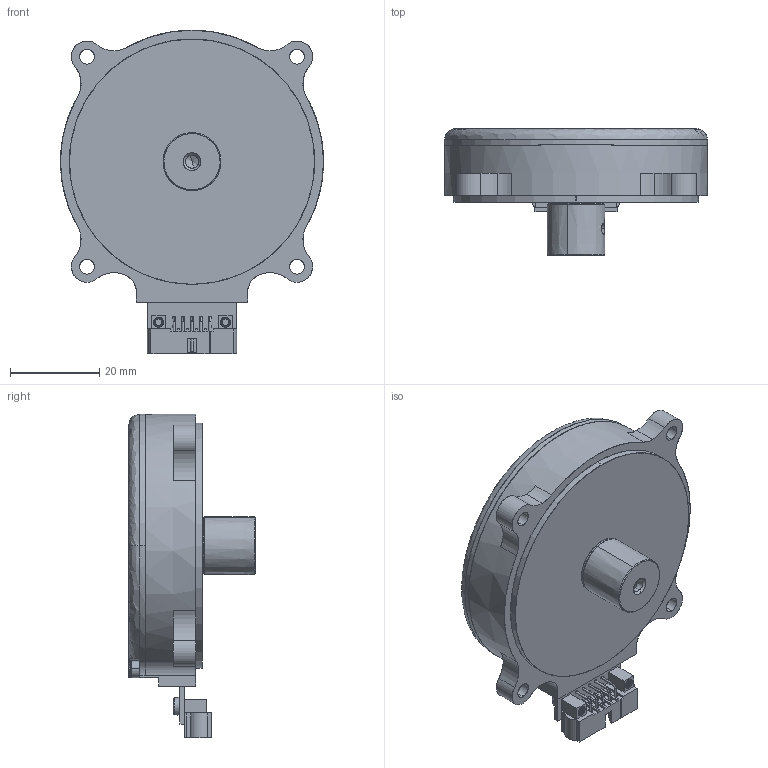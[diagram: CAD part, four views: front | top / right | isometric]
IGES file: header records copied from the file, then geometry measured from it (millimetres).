
Start section: SolidWorks IGES file using analytic representation for surfaces
Global section: file name: C:\Zettlex Data\Mechanical Drawings\1615\58mm Screw Mount 3.000mm Hub RC1 Rev 1-0.IGS; native system: SolidWorks 2017; preprocessor: SolidWorks 2017; author: Istvan; date: 180126.104222; units: millimetre
Bounding box: 59 x 28.42 x 72.6 mm (x, y, z)
Surface area: 18016.4 mm2 (no closed solid volume)
Topology: 0 solids, 0 shells, 1096 faces, 12134 edges, 12120 vertices
Faces by surface type: bspline 648, revolution 448
